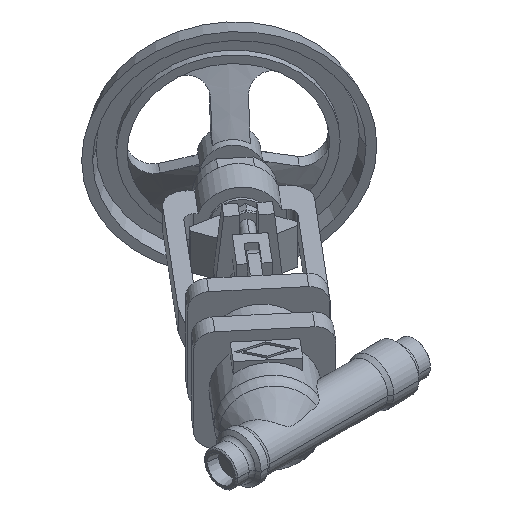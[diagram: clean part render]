
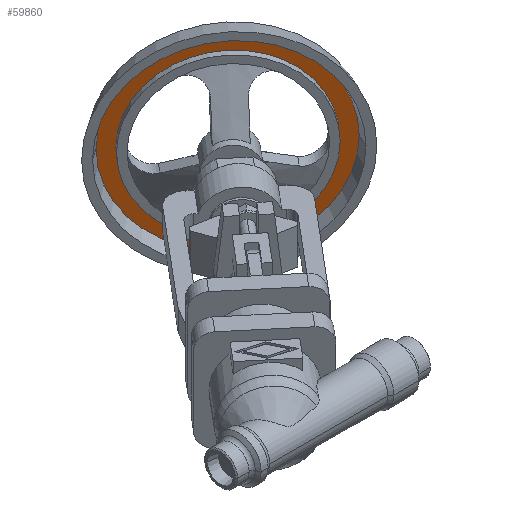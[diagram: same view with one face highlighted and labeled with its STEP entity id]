
A CAD part, isometric view. The second image highlights one B-rep face of the part: STEP entity #59860.
In plain terms, the highlighted planar face has unit normal (-0.643, -0.766, 0).
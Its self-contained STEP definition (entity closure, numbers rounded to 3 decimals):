
#59310=CARTESIAN_POINT('',(144.03,227.033,0.));
#59320=VERTEX_POINT('',#59310);
#59400=CARTESIAN_POINT('',(239.651,146.797,
0.));
#59410=VERTEX_POINT('',#59400);
#59440=CARTESIAN_POINT('',(191.84,186.915,0.));
#59450=DIRECTION('',(0.643,0.766,0.));
#59460=DIRECTION('',(-0.766,0.643,
0.));
#59470=AXIS2_PLACEMENT_3D('',#59440,#59450,#59460);
#59480=CIRCLE('',#59470,62.412);
#59490=EDGE_CURVE('',#59320,#59410,#59480,.T.);
#59610=CARTESIAN_POINT('',(147.635,224.008,
0.));
#59620=DIRECTION('',(-0.643,-0.766,0.));
#59630=DIRECTION('',(0.766,-0.643,
0.));
#59640=AXIS2_PLACEMENT_3D('',#59610,#59620,#59630);
#59650=PLANE('',#59640);
#59660=EDGE_CURVE('',#59410,#59320,#59480,.T.);
#59670=ORIENTED_EDGE('',*,*,#59660,.F.);
#59680=ORIENTED_EDGE('',*,*,#59490,.F.);
#59690=EDGE_LOOP('',(#59680,#59670));
#59700=FACE_OUTER_BOUND('',#59690,.T.);
#59710=CARTESIAN_POINT('',(191.84,186.915,0.));
#59720=DIRECTION('',(0.643,0.766,0.));
#59730=DIRECTION('',(-0.766,0.643,
0.));
#59740=AXIS2_PLACEMENT_3D('',#59710,#59720,#59730);
#59750=CIRCLE('',#59740,53.);
#59760=CARTESIAN_POINT('',(232.441,152.847,
0.));
#59770=VERTEX_POINT('',#59760);
#59780=CARTESIAN_POINT('',(151.24,220.983,
0.));
#59790=VERTEX_POINT('',#59780);
#59800=EDGE_CURVE('',#59770,#59790,#59750,.T.);
#59810=ORIENTED_EDGE('',*,*,#59800,.T.);
#59820=EDGE_CURVE('',#59790,#59770,#59750,.T.);
#59830=ORIENTED_EDGE('',*,*,#59820,.T.);
#59840=EDGE_LOOP('',(#59830,#59810));
#59850=FACE_BOUND('',#59840,.T.);
#59860=ADVANCED_FACE('',(#59700,#59850),#59650,.T.);
